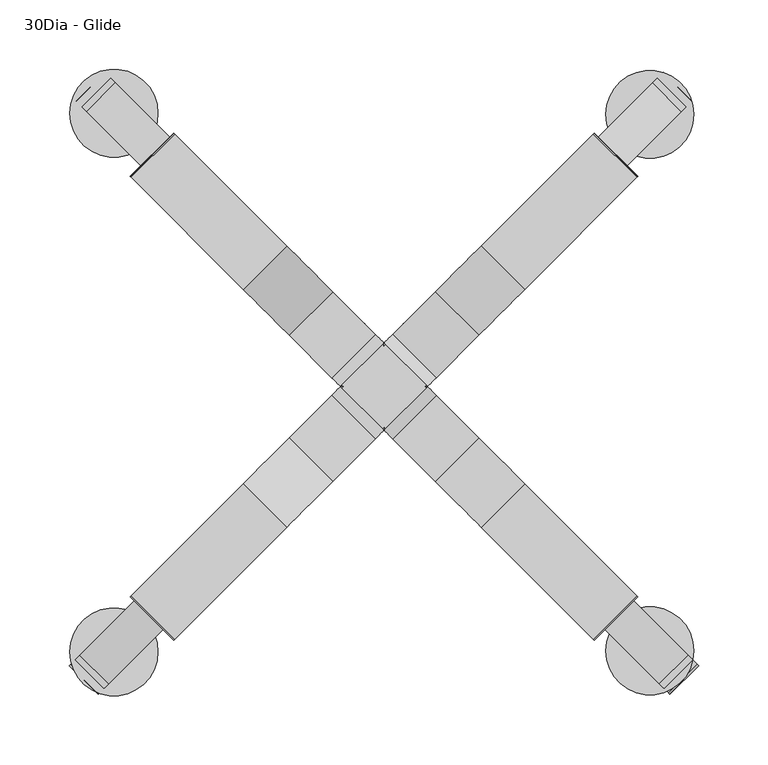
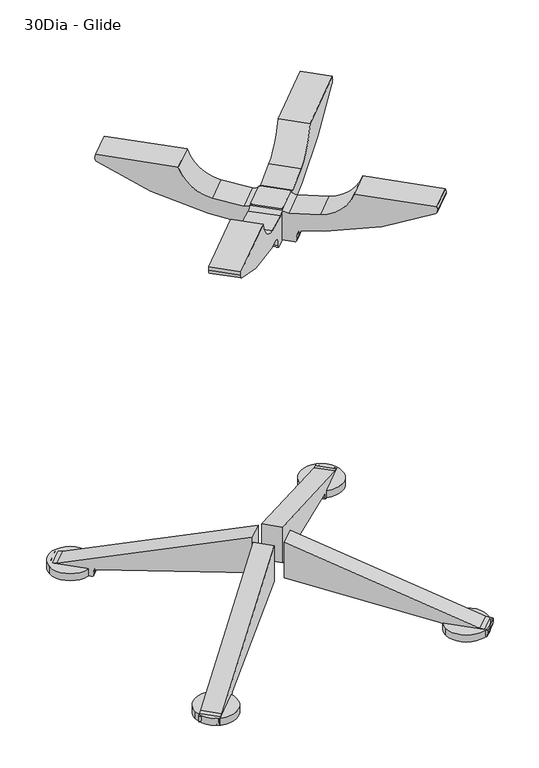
"""IFC4 building model written with IfcOpenShell, lengths in millimetres: furniture geometry, Coalesse_AM_Table_Conference_Ballet_Table_Round : 30Dia - Glide."""

from ifc_helpers import new_model, si_unit, point, frame, frame_2d, origin, place, context, project, spatial, polyline, circle_curve, ellipse_curve, trimmed, segment, composite_curve, outline, extrude, source, transform, mapped, element, save
from ifc_brep_helpers import plane_surface, cylinder_surface, revolved_surface, advanced_brep


def furniture_30dia_glide_76cbbe3d(model_context):
    return source(origin(), model_context, "Body", "SolidModel", [
        extrude(outline(composite_curve([segment(trimmed(circle_curve(frame_2d((-194.715793, 197.3207687)), 31.75), [point((-226.465793, 197.3207687))], [point((-162.965793, 197.3207687))], False, "CARTESIAN"), True, "CONTINUOUS"), segment(trimmed(circle_curve(frame_2d((-194.715793, 197.3207687)), 31.75), [point((-162.965793, 197.3207687))], [point((-226.465793, 197.3207687))], False, "CARTESIAN"), True, "CONTINUOUS")], self_intersect=False)), frame((0.0, 0.0, 4.2904479), z_axis=(0.0, 0.0, 1.0), x_axis=(1.0, 0.0, 0.0)), (0.0, 0.0, 1.0), 11.3833531),
        extrude(outline(composite_curve([segment(trimmed(circle_curve(frame_2d((191.7194605, 196.5270187)), 31.75), [point((159.9694605, 196.5270187))], [point((223.4694605, 196.5270187))], False, "CARTESIAN"), True, "CONTINUOUS"), segment(trimmed(circle_curve(frame_2d((191.7194605, 196.5270187)), 31.75), [point((223.4694605, 196.5270187))], [point((159.9694605, 196.5270187))], False, "CARTESIAN"), True, "CONTINUOUS")], self_intersect=False)), frame((0.0, 0.0, 4.2904479), z_axis=(0.0, 0.0, 1.0), x_axis=(1.0, 0.0, 0.0)), (0.0, 0.0, 1.0), 11.3833531),
        extrude(outline(composite_curve([segment(trimmed(circle_curve(frame_2d((-194.715793, -191.2787692)), 31.75), [point((-226.465793, -191.2787692))], [point((-162.965793, -191.2787692))], False, "CARTESIAN"), True, "CONTINUOUS"), segment(trimmed(circle_curve(frame_2d((-194.715793, -191.2787692)), 31.75), [point((-162.965793, -191.2787692))], [point((-226.465793, -191.2787692))], False, "CARTESIAN"), True, "CONTINUOUS")], self_intersect=False)), frame((0.0, 0.0, 4.2904479), z_axis=(0.0, 0.0, 1.0), x_axis=(1.0, 0.0, 0.0)), (0.0, 0.0, 1.0), 11.3833531),
        extrude(outline(composite_curve([segment(trimmed(circle_curve(frame_2d((191.7194605, -190.4850192)), 31.75), [point((159.9694605, -190.4850192))], [point((223.4694605, -190.4850192))], False, "CARTESIAN"), True, "CONTINUOUS"), segment(trimmed(circle_curve(frame_2d((191.7194605, -190.4850192)), 31.75), [point((223.4694605, -190.4850192))], [point((159.9694605, -190.4850192))], False, "CARTESIAN"), True, "CONTINUOUS")], self_intersect=False)), frame((0.0, 0.0, 4.2904479), z_axis=(0.0, 0.0, 1.0), x_axis=(1.0, 0.0, 0.0)), (0.0, 0.0, 1.0), 11.3833531),
        extrude(outline(composite_curve([segment(polyline([(-57.749273, 0.0), (0.0, 0.0), (-90.9931074, -269.8641919), (-92.3030079, -279.1846177)]), True, "CONTINUOUS"), segment(trimmed(circle_curve(frame_2d((-93.9206951, -278.9572666)), 1.6335852), [point((-92.3030079, -279.1846177))], [point((-93.8206014, -280.5877823))], False, "CARTESIAN"), True, "CONTINUOUS"), segment(trimmed(circle_curve(frame_2d((-95.8523928, -247.4901147)), 33.1599725), [point((-93.8206014, -280.5877823))], [point((-101.682402, -280.1335639))], False, "CARTESIAN"), True, "CONTINUOUS"), segment(trimmed(circle_curve(frame_2d((-101.2796868, -277.8786768)), 2.2905666), [point((-101.682402, -280.1335639))], [point((-103.5674671, -277.7657306))], False, "CARTESIAN"), True, "CONTINUOUS"), segment(polyline([(-103.5674671, -277.7657306), (-103.5674671, -222.4322812)]), True, "CONTINUOUS"), segment(trimmed(circle_curve(frame_2d((-100.6154331, -221.9840334)), 2.9858719), [point((-103.5674671, -222.4322812))], [point((-100.2998684, -219.0148838))], False, "CARTESIAN"), True, "CONTINUOUS"), segment(trimmed(circle_curve(frame_2d((-98.3053249, -200.2482144)), 18.872363), [point((-100.2998684, -219.0148838))], [point((-94.5016021, -218.7332835))], True, "CARTESIAN"), True, "CONTINUOUS"), segment(trimmed(circle_curve(frame_2d((-95.1495986, -215.5841949)), 3.2150673), [point((-94.5016021, -218.7332835))], [point((-91.9741141, -216.0871422))], True, "CARTESIAN"), True, "CONTINUOUS"), segment(polyline([(-91.9741141, -216.0871422), (-57.749273, 0.0)]), True, "CONTINUOUS")], self_intersect=False)), frame((-23.5273141, 7.7834997, 107.857915), z_axis=(0.7071067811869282, 0.707106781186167, 0.0), x_axis=(0.0, 0.0, 1.0)), (0.0, 0.0, 1.0), 29.2174476),
        extrude(outline(composite_curve([segment(polyline([(-57.749273, 44.2801775), (-91.9741141, 260.3673198)]), True, "CONTINUOUS"), segment(trimmed(circle_curve(frame_2d((-95.1495986, 259.8643724)), 3.2150673), [point((-91.9741141, 260.3673198))], [point((-94.5016021, 263.013461))], True, "CARTESIAN"), True, "CONTINUOUS"), segment(trimmed(circle_curve(frame_2d((-98.3053249, 244.5283919)), 18.872363), [point((-94.5016021, 263.013461))], [point((-100.2998684, 263.2950613))], True, "CARTESIAN"), True, "CONTINUOUS"), segment(trimmed(circle_curve(frame_2d((-100.6154331, 266.2642109)), 2.9858719), [point((-100.2998684, 263.2950613))], [point((-103.5674671, 266.7124587))], False, "CARTESIAN"), True, "CONTINUOUS"), segment(polyline([(-103.5674671, 266.7124587), (-103.5674671, 322.0459081)]), True, "CONTINUOUS"), segment(trimmed(circle_curve(frame_2d((-101.2796868, 322.1588543)), 2.2905666), [point((-103.5674671, 322.0459081))], [point((-101.682402, 324.4137415))], False, "CARTESIAN"), True, "CONTINUOUS"), segment(trimmed(circle_curve(frame_2d((-95.8523928, 291.7702923)), 33.1599725), [point((-101.682402, 324.4137415))], [point((-93.8206014, 324.8679598))], False, "CARTESIAN"), True, "CONTINUOUS"), segment(trimmed(circle_curve(frame_2d((-93.9206951, 323.2374442)), 1.6335852), [point((-93.8206014, 324.8679598))], [point((-92.3030079, 323.4647953))], False, "CARTESIAN"), True, "CONTINUOUS"), segment(polyline([(-92.3030079, 323.4647953), (-90.9931074, 314.1443694), (0.0, 44.2801775), (-57.749273, 44.2801775)]), True, "CONTINUOUS")], self_intersect=False)), frame((-23.5273141, 7.7834997, 107.857915), z_axis=(0.7071067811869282, 0.707106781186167, 0.0), x_axis=(0.0, 0.0, 1.0)), (0.0, 0.0, 1.0), 29.2174476),
        extrude(outline(composite_curve([segment(polyline([(-57.749273, 0.0), (0.0, 0.0), (-90.9931074, -269.8641919), (-92.3030079, -279.1846177)]), True, "CONTINUOUS"), segment(trimmed(circle_curve(frame_2d((-93.9206951, -278.9572666)), 1.6335852), [point((-92.3030079, -279.1846177))], [point((-93.8206014, -280.5877823))], False, "CARTESIAN"), True, "CONTINUOUS"), segment(trimmed(circle_curve(frame_2d((-95.8523928, -247.4901147)), 33.1599725), [point((-93.8206014, -280.5877823))], [point((-101.682402, -280.1335639))], False, "CARTESIAN"), True, "CONTINUOUS"), segment(trimmed(circle_curve(frame_2d((-101.2796868, -277.8786768)), 2.2905666), [point((-101.682402, -280.1335639))], [point((-103.5674671, -277.7657306))], False, "CARTESIAN"), True, "CONTINUOUS"), segment(polyline([(-103.5674671, -277.7657306), (-103.5674671, -222.4322812)]), True, "CONTINUOUS"), segment(trimmed(circle_curve(frame_2d((-100.6154331, -221.9840334)), 2.9858719), [point((-103.5674671, -222.4322812))], [point((-100.2998684, -219.0148838))], False, "CARTESIAN"), True, "CONTINUOUS"), segment(trimmed(circle_curve(frame_2d((-98.3053249, -200.2482144)), 18.872363), [point((-100.2998684, -219.0148838))], [point((-94.5016021, -218.7332835))], True, "CARTESIAN"), True, "CONTINUOUS"), segment(trimmed(circle_curve(frame_2d((-95.1495986, -215.5841949)), 3.2150673), [point((-94.5016021, -218.7332835))], [point((-91.9741141, -216.0871422))], True, "CARTESIAN"), True, "CONTINUOUS"), segment(polyline([(-91.9741141, -216.0871422), (-57.749273, 0.0)]), True, "CONTINUOUS")], self_intersect=False)), frame((-7.7834997, -23.5273141, 107.857915), z_axis=(-0.7071067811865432, 0.7071067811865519, 0.0), x_axis=(0.0, 0.0, 1.0)), (0.0, 0.0, 1.0), 29.2174476),
        extrude(outline(composite_curve([segment(polyline([(-57.749273, 44.2801775), (-91.9741141, 260.3673198)]), True, "CONTINUOUS"), segment(trimmed(circle_curve(frame_2d((-95.1495986, 259.8643724)), 3.2150673), [point((-91.9741141, 260.3673198))], [point((-94.5016021, 263.013461))], True, "CARTESIAN"), True, "CONTINUOUS"), segment(trimmed(circle_curve(frame_2d((-98.3053249, 244.5283919)), 18.872363), [point((-94.5016021, 263.013461))], [point((-100.2998684, 263.2950613))], True, "CARTESIAN"), True, "CONTINUOUS"), segment(trimmed(circle_curve(frame_2d((-100.6154331, 266.2642109)), 2.9858719), [point((-100.2998684, 263.2950613))], [point((-103.5674671, 266.7124587))], False, "CARTESIAN"), True, "CONTINUOUS"), segment(polyline([(-103.5674671, 266.7124587), (-103.5674671, 322.0459081)]), True, "CONTINUOUS"), segment(trimmed(circle_curve(frame_2d((-101.2796868, 322.1588543)), 2.2905666), [point((-103.5674671, 322.0459081))], [point((-101.682402, 324.4137415))], False, "CARTESIAN"), True, "CONTINUOUS"), segment(trimmed(circle_curve(frame_2d((-95.8523928, 291.7702923)), 33.1599725), [point((-101.682402, 324.4137415))], [point((-93.8206014, 324.8679598))], False, "CARTESIAN"), True, "CONTINUOUS"), segment(trimmed(circle_curve(frame_2d((-93.9206951, 323.2374442)), 1.6335852), [point((-93.8206014, 324.8679598))], [point((-92.3030079, 323.4647953))], False, "CARTESIAN"), True, "CONTINUOUS"), segment(polyline([(-92.3030079, 323.4647953), (-90.9931074, 314.1443694), (0.0, 44.2801775), (-57.749273, 44.2801775)]), True, "CONTINUOUS")], self_intersect=False)), frame((-7.7834997, -23.5273141, 107.857915), z_axis=(-0.7071067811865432, 0.7071067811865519, 0.0), x_axis=(0.0, 0.0, 1.0)), (0.0, 0.0, 1.0), 29.2174476),
        extrude(outline(composite_curve([segment(polyline([(-57.749273, 0.0), (0.0, 0.0), (-90.9931074, -269.8641919), (-92.3030079, -279.1846177)]), True, "CONTINUOUS"), segment(trimmed(circle_curve(frame_2d((-93.9206951, -278.9572666)), 1.6335852), [point((-92.3030079, -279.1846177))], [point((-93.8206014, -280.5877823))], False, "CARTESIAN"), True, "CONTINUOUS"), segment(trimmed(circle_curve(frame_2d((-95.8523928, -247.4901147)), 33.1599725), [point((-93.8206014, -280.5877823))], [point((-101.682402, -280.1335639))], False, "CARTESIAN"), True, "CONTINUOUS"), segment(trimmed(circle_curve(frame_2d((-101.2796868, -277.8786768)), 2.2905666), [point((-101.682402, -280.1335639))], [point((-103.5674671, -277.7657306))], False, "CARTESIAN"), True, "CONTINUOUS"), segment(polyline([(-103.5674671, -277.7657306), (-103.5674671, -222.4322812)]), True, "CONTINUOUS"), segment(trimmed(circle_curve(frame_2d((-100.6154331, -221.9840334)), 2.9858719), [point((-103.5674671, -222.4322812))], [point((-100.2998684, -219.0148838))], False, "CARTESIAN"), True, "CONTINUOUS"), segment(trimmed(circle_curve(frame_2d((-98.3053249, -200.2482144)), 18.872363), [point((-100.2998684, -219.0148838))], [point((-94.5016021, -218.7332835))], True, "CARTESIAN"), True, "CONTINUOUS"), segment(trimmed(circle_curve(frame_2d((-95.1495986, -215.5841949)), 3.2150673), [point((-94.5016021, -218.7332835))], [point((-91.9741141, -216.0871422))], True, "CARTESIAN"), True, "CONTINUOUS"), segment(polyline([(-91.9741141, -216.0871422), (-57.749273, 0.0)]), True, "CONTINUOUS")], self_intersect=False)), frame((-23.5273141, 7.7834997, 107.857915), z_axis=(0.7071067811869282, 0.707106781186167, 0.0), x_axis=(0.0, 0.0, 1.0)), (0.0, 0.0, 1.0), 29.2174476),
        extrude(outline(composite_curve([segment(polyline([(-57.749273, 44.2801775), (-91.9741141, 260.3673198)]), True, "CONTINUOUS"), segment(trimmed(circle_curve(frame_2d((-95.1495986, 259.8643724)), 3.2150673), [point((-91.9741141, 260.3673198))], [point((-94.5016021, 263.013461))], True, "CARTESIAN"), True, "CONTINUOUS"), segment(trimmed(circle_curve(frame_2d((-98.3053249, 244.5283919)), 18.872363), [point((-94.5016021, 263.013461))], [point((-100.2998684, 263.2950613))], True, "CARTESIAN"), True, "CONTINUOUS"), segment(trimmed(circle_curve(frame_2d((-100.6154331, 266.2642109)), 2.9858719), [point((-100.2998684, 263.2950613))], [point((-103.5674671, 266.7124587))], False, "CARTESIAN"), True, "CONTINUOUS"), segment(polyline([(-103.5674671, 266.7124587), (-103.5674671, 322.0459081)]), True, "CONTINUOUS"), segment(trimmed(circle_curve(frame_2d((-101.2796868, 322.1588543)), 2.2905666), [point((-103.5674671, 322.0459081))], [point((-101.682402, 324.4137415))], False, "CARTESIAN"), True, "CONTINUOUS"), segment(trimmed(circle_curve(frame_2d((-95.8523928, 291.7702923)), 33.1599725), [point((-101.682402, 324.4137415))], [point((-93.8206014, 324.8679598))], False, "CARTESIAN"), True, "CONTINUOUS"), segment(trimmed(circle_curve(frame_2d((-93.9206951, 323.2374442)), 1.6335852), [point((-93.8206014, 324.8679598))], [point((-92.3030079, 323.4647953))], False, "CARTESIAN"), True, "CONTINUOUS"), segment(polyline([(-92.3030079, 323.4647953), (-90.9931074, 314.1443694), (0.0, 44.2801775), (-57.749273, 44.2801775)]), True, "CONTINUOUS")], self_intersect=False)), frame((-23.5273141, 7.7834997, 107.857915), z_axis=(0.7071067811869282, 0.707106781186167, 0.0), x_axis=(0.0, 0.0, 1.0)), (0.0, 0.0, 1.0), 29.2174476),
        extrude(outline(composite_curve([segment(polyline([(-57.749273, 0.0), (0.0, 0.0), (-90.9931074, -269.8641919), (-92.3030079, -279.1846177)]), True, "CONTINUOUS"), segment(trimmed(circle_curve(frame_2d((-93.9206951, -278.9572666)), 1.6335852), [point((-92.3030079, -279.1846177))], [point((-93.8206014, -280.5877823))], False, "CARTESIAN"), True, "CONTINUOUS"), segment(trimmed(circle_curve(frame_2d((-95.8523928, -247.4901147)), 33.1599725), [point((-93.8206014, -280.5877823))], [point((-101.682402, -280.1335639))], False, "CARTESIAN"), True, "CONTINUOUS"), segment(trimmed(circle_curve(frame_2d((-101.2796868, -277.8786768)), 2.2905666), [point((-101.682402, -280.1335639))], [point((-103.5674671, -277.7657306))], False, "CARTESIAN"), True, "CONTINUOUS"), segment(polyline([(-103.5674671, -277.7657306), (-103.5674671, -222.4322812)]), True, "CONTINUOUS"), segment(trimmed(circle_curve(frame_2d((-100.6154331, -221.9840334)), 2.9858719), [point((-103.5674671, -222.4322812))], [point((-100.2998684, -219.0148838))], False, "CARTESIAN"), True, "CONTINUOUS"), segment(trimmed(circle_curve(frame_2d((-98.3053249, -200.2482144)), 18.872363), [point((-100.2998684, -219.0148838))], [point((-94.5016021, -218.7332835))], True, "CARTESIAN"), True, "CONTINUOUS"), segment(trimmed(circle_curve(frame_2d((-95.1495986, -215.5841949)), 3.2150673), [point((-94.5016021, -218.7332835))], [point((-91.9741141, -216.0871422))], True, "CARTESIAN"), True, "CONTINUOUS"), segment(polyline([(-91.9741141, -216.0871422), (-57.749273, 0.0)]), True, "CONTINUOUS")], self_intersect=False)), frame((-7.7834997, -23.5273141, 107.857915), z_axis=(-0.7071067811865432, 0.7071067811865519, 0.0), x_axis=(0.0, 0.0, 1.0)), (0.0, 0.0, 1.0), 29.2174476),
        extrude(outline(composite_curve([segment(polyline([(-57.749273, 44.2801775), (-91.9741141, 260.3673198)]), True, "CONTINUOUS"), segment(trimmed(circle_curve(frame_2d((-95.1495986, 259.8643724)), 3.2150673), [point((-91.9741141, 260.3673198))], [point((-94.5016021, 263.013461))], True, "CARTESIAN"), True, "CONTINUOUS"), segment(trimmed(circle_curve(frame_2d((-98.3053249, 244.5283919)), 18.872363), [point((-94.5016021, 263.013461))], [point((-100.2998684, 263.2950613))], True, "CARTESIAN"), True, "CONTINUOUS"), segment(trimmed(circle_curve(frame_2d((-100.6154331, 266.2642109)), 2.9858719), [point((-100.2998684, 263.2950613))], [point((-103.5674671, 266.7124587))], False, "CARTESIAN"), True, "CONTINUOUS"), segment(polyline([(-103.5674671, 266.7124587), (-103.5674671, 322.0459081)]), True, "CONTINUOUS"), segment(trimmed(circle_curve(frame_2d((-101.2796868, 322.1588543)), 2.2905666), [point((-103.5674671, 322.0459081))], [point((-101.682402, 324.4137415))], False, "CARTESIAN"), True, "CONTINUOUS"), segment(trimmed(circle_curve(frame_2d((-95.8523928, 291.7702923)), 33.1599725), [point((-101.682402, 324.4137415))], [point((-93.8206014, 324.8679598))], False, "CARTESIAN"), True, "CONTINUOUS"), segment(trimmed(circle_curve(frame_2d((-93.9206951, 323.2374442)), 1.6335852), [point((-93.8206014, 324.8679598))], [point((-92.3030079, 323.4647953))], False, "CARTESIAN"), True, "CONTINUOUS"), segment(polyline([(-92.3030079, 323.4647953), (-90.9931074, 314.1443694), (0.0, 44.2801775), (-57.749273, 44.2801775)]), True, "CONTINUOUS")], self_intersect=False)), frame((-7.7834997, -23.5273141, 107.857915), z_axis=(-0.7071067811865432, 0.7071067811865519, 0.0), x_axis=(0.0, 0.0, 1.0)), (0.0, 0.0, 1.0), 29.2174476),
        advanced_brep(
        [(-150.9398086, 182.2506224, 700.0114872), (-70.1175035, 101.4283173, 700.0114872), (-37.0411578, 68.3519716, 657.9865814), (-6.3643773, 37.6751912, 652.7037643), (0.0, 31.3108139, 656.2118338), (0.0, 31.3108139, 607.705542), (-12.3857352, 43.696549, 607.705542), (-14.2020287, 45.5128426, 611.6658356), (-15.6984339, 47.0092478, 622.1978097), (-23.1902019, 54.5010157, 628.8391432), (-41.0401266, 72.3509404, 632.6071482), (-149.5727323, 180.8835461, 688.6179), (-151.5948536, 182.9056675, 694.7577614), (1.002461, 30.3083528, 657.9865814), (30.3083528, 1.002461, 657.9865814), (31.3108139, 0.0, 656.2118338), (37.6751912, -6.3643773, 652.7037643), (68.3519716, -37.0411578, 657.9865814), (101.4283173, -70.1175035, 700.0114872), (182.2506224, -150.9398086, 700.0114872), (182.9056675, -151.5948536, 694.7577614), (180.8835461, -149.5727323, 688.6179), (72.3509404, -41.0401266, 632.6071482), (54.5010157, -23.1902019, 628.8391432), (47.0092478, -15.6984339, 622.1978097), (45.5128426, -14.2020287, 611.6658356), (43.696549, -12.3857352, 607.705542), (31.3108139, 0.0, 607.705542), (-182.2506224, 150.9398086, 700.0114872), (-182.9056675, 151.5948536, 694.7577614), (-180.8835461, 149.5727323, 688.6179), (-72.3509404, 41.0401266, 632.6071482), (-54.5010157, 23.1902019, 628.8391432), (-47.0092478, 15.6984339, 622.1978097), (-45.5128426, 14.2020287, 611.6658356), (-43.696549, 12.3857352, 607.705542), (-31.3108139, 0.0, 607.705542), (-31.3108139, 0.0, 656.2118338), (-37.6751912, 6.3643773, 652.7037643), (-68.3519716, 37.0411578, 657.9865814), (-101.4283173, 70.1175035, 700.0114872), (12.3857352, -43.696549, 607.705542), (14.2020287, -45.5128426, 611.6658356), (15.6984339, -47.0092478, 622.1978097), (23.1902019, -54.5010157, 628.8391432), (41.0401266, -72.3509404, 632.6071482), (149.5727323, -180.8835461, 688.6179), (151.5948536, -182.9056675, 694.7577614), (150.9398086, -182.2506224, 700.0114872), (70.1175035, -101.4283173, 700.0114872), (37.0411578, -68.3519716, 657.9865814), (6.3643773, -37.6751912, 652.7037643), (0.0, -31.3108139, 656.2118338), (0.0, -31.3108139, 607.705542), (-1.002461, -30.3083528, 657.9865814), (-30.3083528, -1.002461, 657.9865814), (0.0, 29.3058918, 657.9865814), (-29.3058918, 0.0, 657.9865814), (-1.002461, 30.3083528, 657.9865814), (-30.3083528, 1.002461, 657.9865814), (0.0, -29.3058918, 657.9865814), (1.002461, -30.3083528, 657.9865814), (30.3083528, -1.002461, 657.9865814), (29.3058918, 0.0, 657.9865814), (-12.3857352, -43.696549, 607.705542), (-43.696549, -12.3857352, 607.705542), (12.3857352, 43.696549, 607.705542), (43.696549, 12.3857352, 607.705542), (-182.2506224, -150.9398086, 700.0114872), (-101.4283173, -70.1175035, 700.0114872), (-68.3519716, -37.0411578, 657.9865814), (-37.6751912, -6.3643773, 652.7037643), (-45.5128426, -14.2020287, 611.6658356), (-47.0092478, -15.6984339, 622.1978097), (-54.5010157, -23.1902019, 628.8391432), (-72.3509404, -41.0401266, 632.6071482), (-180.8835461, -149.5727323, 688.6179), (-182.9056675, -151.5948536, 694.7577614), (6.3643773, 37.6751912, 652.7037643), (37.0411578, 68.3519716, 657.9865814), (70.1175035, 101.4283173, 700.0114872), (150.9398086, 182.2506224, 700.0114872), (151.5948536, 182.9056675, 694.7577614), (149.5727323, 180.8835461, 688.6179), (41.0401266, 72.3509404, 632.6071482), (23.1902019, 54.5010157, 628.8391432), (15.6984339, 47.0092478, 622.1978097), (14.2020287, 45.5128426, 611.6658356), (-150.9398086, -182.2506224, 700.0114872), (-151.5948536, -182.9056675, 694.7577614), (-149.5727323, -180.8835461, 688.6179), (-41.0401266, -72.3509404, 632.6071482), (-23.1902019, -54.5010157, 628.8391432), (-15.6984339, -47.0092478, 622.1978097), (-14.2020287, -45.5128426, 611.6658356), (-6.3643773, -37.6751912, 652.7037643), (-37.0411578, -68.3519716, 657.9865814), (-70.1175035, -101.4283173, 700.0114872), (45.5128426, 14.2020287, 611.6658356), (47.0092478, 15.6984339, 622.1978097), (54.5010157, 23.1902019, 628.8391432), (72.3509404, 41.0401266, 632.6071482), (180.8835461, 149.5727323, 688.6179), (182.9056675, 151.5948536, 694.7577614), (182.2506224, 150.9398086, 700.0114872), (101.4283173, 70.1175035, 700.0114872), (68.3519716, 37.0411578, 657.9865814), (37.6751912, 6.3643773, 652.7037643)],
        [
            (0, 1),
            (1, 2, circle_curve(frame((-29.0948532, 60.4056671, 717.5408002), z_axis=(-0.7071067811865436, -0.7071067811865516, 0.0), x_axis=(-0.7071067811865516, 0.7071067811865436, 0.0)), 60.6052183)),
            (2, 3, circle_curve(frame((6.8454357, 24.4653781, 986.8981875), z_axis=(-0.7071067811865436, -0.7071067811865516, 0.0), x_axis=(-0.7071067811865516, 0.7071067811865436, 0.0)), 334.7161645)),
            (3, 4, circle_curve(frame((-5.9045929, 37.2154067, 664.335829), z_axis=(-0.7071067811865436, -0.7071067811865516, 0.0), x_axis=(-0.7071067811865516, 0.7071067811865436, 0.0)), 11.6502245)),
            (4, 5),
            (5, 6),
            (6, 7, circle_curve(frame((-11.7932683, 43.1040822, 611.0621296), z_axis=(0.7071067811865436, 0.7071067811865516, 0.0), x_axis=(-0.7071067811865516, 0.7071067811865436, 0.0)), 3.4595829)),
            (7, 8, circle_curve(frame((-24.4463544, 55.7571683, 614.2333641), z_axis=(-0.7071067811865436, -0.7071067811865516, 0.0), x_axis=(-0.7071067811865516, 0.7071067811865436, 0.0)), 14.7134164)),
            (8, 9, circle_curve(frame((-24.4463544, 55.7571683, 614.2333641), z_axis=(-0.7071067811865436, -0.7071067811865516, 0.0), x_axis=(-0.7071067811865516, 0.7071067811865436, 0.0)), 14.7134164)),
            (9, 10, circle_curve(frame((16.961398, 14.3494158, 1095.6975551), z_axis=(0.7071067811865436, 0.7071067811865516, 0.0), x_axis=(-0.7071067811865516, 0.7071067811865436, 0.0)), 470.2989248)),
            (10, 11, circle_curve(frame((16.961398, 14.3494158, 1095.6975551), z_axis=(0.7071067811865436, 0.7071067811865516, 0.0), x_axis=(-0.7071067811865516, 0.7071067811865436, 0.0)), 470.2989248)),
            (11, 12, circle_curve(frame((-147.4806516, 178.7914655, 693.7318275), z_axis=(0.7071067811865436, 0.7071067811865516, 0.0), x_axis=(-0.7071067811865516, 0.7071067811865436, 0.0)), 5.9081179)),
            (12, 0),
            (13, 14),
            (14, 15, circle_curve(frame((37.2154067, -5.9045929, 664.335829), z_axis=(-0.7071067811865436, -0.7071067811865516, 0.0), x_axis=(-0.7071067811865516, 0.7071067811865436, 0.0)), 11.6502245)),
            (15, 4),
            (4, 13, circle_curve(frame((-5.9045929, 37.2154067, 664.335829), z_axis=(-0.7071067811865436, -0.7071067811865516, 0.0), x_axis=(-0.7071067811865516, 0.7071067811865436, 0.0)), 11.6502245)),
            (16, 17, circle_curve(frame((24.4653781, 6.8454357, 986.8981875), z_axis=(-0.7071067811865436, -0.7071067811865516, 0.0), x_axis=(-0.7071067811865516, 0.7071067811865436, 0.0)), 334.7161645)),
            (17, 18, circle_curve(frame((60.4056671, -29.0948532, 717.5408002), z_axis=(-0.7071067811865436, -0.7071067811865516, 0.0), x_axis=(-0.7071067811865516, 0.7071067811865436, 0.0)), 60.6052183)),
            (18, 19),
            (19, 20),
            (20, 21, circle_curve(frame((178.7914655, -147.4806516, 693.7318275), z_axis=(0.7071067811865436, 0.7071067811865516, 0.0), x_axis=(-0.7071067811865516, 0.7071067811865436, 0.0)), 5.9081179)),
            (21, 22, circle_curve(frame((14.3494158, 16.961398, 1095.6975551), z_axis=(0.7071067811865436, 0.7071067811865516, 0.0), x_axis=(-0.7071067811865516, 0.7071067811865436, 0.0)), 470.2989248)),
            (22, 23, circle_curve(frame((14.3494158, 16.961398, 1095.6975551), z_axis=(0.7071067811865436, 0.7071067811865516, 0.0), x_axis=(-0.7071067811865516, 0.7071067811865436, 0.0)), 470.2989248)),
            (23, 24, circle_curve(frame((55.7571683, -24.4463544, 614.2333641), z_axis=(-0.7071067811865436, -0.7071067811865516, 0.0), x_axis=(-0.7071067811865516, 0.7071067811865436, 0.0)), 14.7134164)),
            (24, 25, circle_curve(frame((55.7571683, -24.4463544, 614.2333641), z_axis=(-0.7071067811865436, -0.7071067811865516, 0.0), x_axis=(-0.7071067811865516, 0.7071067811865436, 0.0)), 14.7134164)),
            (25, 26, circle_curve(frame((43.1040822, -11.7932683, 611.0621296), z_axis=(0.7071067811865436, 0.7071067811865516, 0.0), x_axis=(-0.7071067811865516, 0.7071067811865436, 0.0)), 3.4595829)),
            (26, 27),
            (27, 15),
            (15, 16, circle_curve(frame((37.2154067, -5.9045929, 664.335829), z_axis=(-0.7071067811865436, -0.7071067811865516, 0.0), x_axis=(-0.7071067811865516, 0.7071067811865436, 0.0)), 11.6502245)),
            (28, 29),
            (29, 30, circle_curve(frame((-178.7914655, 147.4806516, 693.7318275), z_axis=(-0.7071067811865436, -0.7071067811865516, 0.0), x_axis=(-0.7071067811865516, 0.7071067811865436, 0.0)), 5.9081179)),
            (30, 31, circle_curve(frame((-14.3494158, -16.961398, 1095.6975551), z_axis=(-0.7071067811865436, -0.7071067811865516, 0.0), x_axis=(-0.7071067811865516, 0.7071067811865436, 0.0)), 470.2989248)),
            (31, 32, circle_curve(frame((-14.3494158, -16.961398, 1095.6975551), z_axis=(-0.7071067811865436, -0.7071067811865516, 0.0), x_axis=(-0.7071067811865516, 0.7071067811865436, 0.0)), 470.2989248)),
            (32, 33, circle_curve(frame((-55.7571683, 24.4463544, 614.2333641), z_axis=(0.7071067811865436, 0.7071067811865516, 0.0), x_axis=(-0.7071067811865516, 0.7071067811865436, 0.0)), 14.7134164)),
            (33, 34, circle_curve(frame((-55.7571683, 24.4463544, 614.2333641), z_axis=(0.7071067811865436, 0.7071067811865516, 0.0), x_axis=(-0.7071067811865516, 0.7071067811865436, 0.0)), 14.7134164)),
            (34, 35, circle_curve(frame((-43.1040822, 11.7932683, 611.0621296), z_axis=(-0.7071067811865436, -0.7071067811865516, 0.0), x_axis=(-0.7071067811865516, 0.7071067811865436, 0.0)), 3.4595829)),
            (35, 36),
            (36, 37),
            (37, 38, circle_curve(frame((-37.2154067, 5.9045929, 664.335829), z_axis=(0.7071067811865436, 0.7071067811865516, 0.0), x_axis=(-0.7071067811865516, 0.7071067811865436, 0.0)), 11.6502245)),
            (38, 39, circle_curve(frame((-24.4653781, -6.8454357, 986.8981875), z_axis=(0.7071067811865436, 0.7071067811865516, 0.0), x_axis=(-0.7071067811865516, 0.7071067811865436, 0.0)), 334.7161645)),
            (39, 40, circle_curve(frame((-60.4056671, 29.0948532, 717.5408002), z_axis=(0.7071067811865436, 0.7071067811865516, 0.0), x_axis=(-0.7071067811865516, 0.7071067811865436, 0.0)), 60.6052183)),
            (40, 28),
            (41, 42, circle_curve(frame((11.7932683, -43.1040822, 611.0621296), z_axis=(-0.7071067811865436, -0.7071067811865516, 0.0), x_axis=(-0.7071067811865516, 0.7071067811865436, 0.0)), 3.4595829)),
            (42, 43, circle_curve(frame((24.4463544, -55.7571683, 614.2333641), z_axis=(0.7071067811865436, 0.7071067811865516, 0.0), x_axis=(-0.7071067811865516, 0.7071067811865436, 0.0)), 14.7134164)),
            (43, 44, circle_curve(frame((24.4463544, -55.7571683, 614.2333641), z_axis=(0.7071067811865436, 0.7071067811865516, 0.0), x_axis=(-0.7071067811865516, 0.7071067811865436, 0.0)), 14.7134164)),
            (44, 45, circle_curve(frame((-16.961398, -14.3494158, 1095.6975551), z_axis=(-0.7071067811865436, -0.7071067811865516, 0.0), x_axis=(-0.7071067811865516, 0.7071067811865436, 0.0)), 470.2989248)),
            (45, 46, circle_curve(frame((-16.961398, -14.3494158, 1095.6975551), z_axis=(-0.7071067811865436, -0.7071067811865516, 0.0), x_axis=(-0.7071067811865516, 0.7071067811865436, 0.0)), 470.2989248)),
            (46, 47, circle_curve(frame((147.4806516, -178.7914655, 693.7318275), z_axis=(-0.7071067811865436, -0.7071067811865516, 0.0), x_axis=(-0.7071067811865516, 0.7071067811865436, 0.0)), 5.9081179)),
            (47, 48),
            (48, 49),
            (49, 50, circle_curve(frame((29.0948532, -60.4056671, 717.5408002), z_axis=(0.7071067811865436, 0.7071067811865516, 0.0), x_axis=(-0.7071067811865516, 0.7071067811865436, 0.0)), 60.6052183)),
            (50, 51, circle_curve(frame((-6.8454357, -24.4653781, 986.8981875), z_axis=(0.7071067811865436, 0.7071067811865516, 0.0), x_axis=(-0.7071067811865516, 0.7071067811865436, 0.0)), 334.7161645)),
            (51, 52, circle_curve(frame((5.9045929, -37.2154067, 664.335829), z_axis=(0.7071067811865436, 0.7071067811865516, 0.0), x_axis=(-0.7071067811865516, 0.7071067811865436, 0.0)), 11.6502245)),
            (52, 53),
            (53, 41),
            (54, 55),
            (55, 37, circle_curve(frame((-37.2154067, 5.9045929, 664.335829), z_axis=(0.7071067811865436, 0.7071067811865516, 0.0), x_axis=(-0.7071067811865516, 0.7071067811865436, 0.0)), 11.6502245)),
            (37, 52),
            (52, 54, circle_curve(frame((5.9045929, -37.2154067, 664.335829), z_axis=(0.7071067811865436, 0.7071067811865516, 0.0), x_axis=(-0.7071067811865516, 0.7071067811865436, 0.0)), 11.6502245)),
            (0, 28),
            (40, 1),
            (39, 2),
            (38, 3),
            (4, 56, ellipse_curve(frame((0.0, 43.1199996, 664.335829), z_axis=(-1.0, 0.0, 0.0), x_axis=(0.0, -1.0, 0.0)), 16.4759055, 11.6502245)),
            (56, 13),
            (55, 57),
            (57, 37, ellipse_curve(frame((-43.1199996, 0.0, 664.335829), z_axis=(0.0, 1.0, 0.0), x_axis=(-1.0, 0.0, 0.0)), 16.4759055, 11.6502245)),
            (37, 4),
            (56, 58),
            (58, 59),
            (59, 57),
            (54, 60),
            (60, 61),
            (61, 62),
            (62, 63),
            (63, 14),
            (63, 15, ellipse_curve(frame((43.1199996, 0.0, 664.335829), z_axis=(0.0, -1.0, 0.0), x_axis=(-1.0, 0.0, 0.0)), 16.4759055, 11.6502245)),
            (52, 60, ellipse_curve(frame((0.0, -43.1199996, 664.335829), z_axis=(1.0, 0.0, 0.0), x_axis=(0.0, -1.0, 0.0)), 16.4759055, 11.6502245)),
            (51, 16),
            (15, 52),
            (50, 17),
            (49, 18),
            (48, 19),
            (47, 20),
            (46, 21),
            (45, 22),
            (44, 23),
            (43, 24),
            (42, 25),
            (41, 26),
            (53, 64),
            (64, 65),
            (65, 36),
            (35, 6),
            (5, 66),
            (66, 67),
            (67, 27),
            (34, 7),
            (33, 8),
            (32, 9),
            (31, 10),
            (30, 11),
            (29, 12),
            (58, 4, circle_curve(frame((5.9045929, 37.2154067, 664.335829), z_axis=(0.707106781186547, -0.7071067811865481, 0.0), x_axis=(-0.7071067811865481, -0.707106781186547, 0.0)), 11.6502245)),
            (37, 59, circle_curve(frame((-37.2154067, -5.9045929, 664.335829), z_axis=(0.707106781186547, -0.7071067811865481, 0.0), x_axis=(-0.7071067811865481, -0.707106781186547, 0.0)), 11.6502245)),
            (68, 69),
            (69, 70, circle_curve(frame((-60.4056671, -29.0948532, 717.5408002), z_axis=(0.707106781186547, -0.7071067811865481, 0.0), x_axis=(-0.7071067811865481, -0.707106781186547, 0.0)), 60.6052183)),
            (70, 71, circle_curve(frame((-24.4653781, 6.8454357, 986.8981875), z_axis=(0.707106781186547, -0.7071067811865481, 0.0), x_axis=(-0.7071067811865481, -0.707106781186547, 0.0)), 334.7161645)),
            (71, 37, circle_curve(frame((-37.2154067, -5.9045929, 664.335829), z_axis=(0.707106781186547, -0.7071067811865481, 0.0), x_axis=(-0.7071067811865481, -0.707106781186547, 0.0)), 11.6502245)),
            (65, 72, circle_curve(frame((-43.1040822, -11.7932683, 611.0621296), z_axis=(-0.707106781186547, 0.7071067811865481, 0.0), x_axis=(-0.7071067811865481, -0.707106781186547, 0.0)), 3.4595829)),
            (72, 73, circle_curve(frame((-55.7571683, -24.4463544, 614.2333641), z_axis=(0.707106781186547, -0.7071067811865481, 0.0), x_axis=(-0.7071067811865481, -0.707106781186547, 0.0)), 14.7134164)),
            (73, 74, circle_curve(frame((-55.7571683, -24.4463544, 614.2333641), z_axis=(0.707106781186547, -0.7071067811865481, 0.0), x_axis=(-0.7071067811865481, -0.707106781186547, 0.0)), 14.7134164)),
            (74, 75, circle_curve(frame((-14.3494158, 16.961398, 1095.6975551), z_axis=(-0.707106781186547, 0.7071067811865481, 0.0), x_axis=(-0.7071067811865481, -0.707106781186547, 0.0)), 470.2989248)),
            (75, 76, circle_curve(frame((-14.3494158, 16.961398, 1095.6975551), z_axis=(-0.707106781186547, 0.7071067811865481, 0.0), x_axis=(-0.7071067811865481, -0.707106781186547, 0.0)), 470.2989248)),
            (76, 77, circle_curve(frame((-178.7914655, -147.4806516, 693.7318275), z_axis=(-0.707106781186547, 0.7071067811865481, 0.0), x_axis=(-0.7071067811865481, -0.707106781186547, 0.0)), 5.9081179)),
            (77, 68),
            (78, 79, circle_curve(frame((-6.8454357, 24.4653781, 986.8981875), z_axis=(0.707106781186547, -0.7071067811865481, 0.0), x_axis=(-0.7071067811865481, -0.707106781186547, 0.0)), 334.7161645)),
            (79, 80, circle_curve(frame((29.0948532, 60.4056671, 717.5408002), z_axis=(0.707106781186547, -0.7071067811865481, 0.0), x_axis=(-0.7071067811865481, -0.707106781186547, 0.0)), 60.6052183)),
            (80, 81),
            (81, 82),
            (82, 83, circle_curve(frame((147.4806516, 178.7914655, 693.7318275), z_axis=(-0.707106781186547, 0.7071067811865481, 0.0), x_axis=(-0.7071067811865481, -0.707106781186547, 0.0)), 5.9081179)),
            (83, 84, circle_curve(frame((-16.961398, 14.3494158, 1095.6975551), z_axis=(-0.707106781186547, 0.7071067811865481, 0.0), x_axis=(-0.7071067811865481, -0.707106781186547, 0.0)), 470.2989248)),
            (84, 85, circle_curve(frame((-16.961398, 14.3494158, 1095.6975551), z_axis=(-0.707106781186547, 0.7071067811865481, 0.0), x_axis=(-0.7071067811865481, -0.707106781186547, 0.0)), 470.2989248)),
            (85, 86, circle_curve(frame((24.4463544, 55.7571683, 614.2333641), z_axis=(0.707106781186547, -0.7071067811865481, 0.0), x_axis=(-0.7071067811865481, -0.707106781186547, 0.0)), 14.7134164)),
            (86, 87, circle_curve(frame((24.4463544, 55.7571683, 614.2333641), z_axis=(0.707106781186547, -0.7071067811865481, 0.0), x_axis=(-0.7071067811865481, -0.707106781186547, 0.0)), 14.7134164)),
            (87, 66, circle_curve(frame((11.7932683, 43.1040822, 611.0621296), z_axis=(-0.707106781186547, 0.7071067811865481, 0.0), x_axis=(-0.7071067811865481, -0.707106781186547, 0.0)), 3.4595829)),
            (4, 78, circle_curve(frame((5.9045929, 37.2154067, 664.335829), z_axis=(0.707106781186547, -0.7071067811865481, 0.0), x_axis=(-0.7071067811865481, -0.707106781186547, 0.0)), 11.6502245)),
            (61, 52, circle_curve(frame((-5.9045929, -37.2154067, 664.335829), z_axis=(-0.707106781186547, 0.7071067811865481, 0.0), x_axis=(-0.7071067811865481, -0.707106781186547, 0.0)), 11.6502245)),
            (15, 62, circle_curve(frame((37.2154067, 5.9045929, 664.335829), z_axis=(-0.707106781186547, 0.7071067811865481, 0.0), x_axis=(-0.7071067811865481, -0.707106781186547, 0.0)), 11.6502245)),
            (88, 89),
            (89, 90, circle_curve(frame((-147.4806516, -178.7914655, 693.7318275), z_axis=(0.707106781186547, -0.7071067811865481, 0.0), x_axis=(-0.7071067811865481, -0.707106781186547, 0.0)), 5.9081179)),
            (90, 91, circle_curve(frame((16.961398, -14.3494158, 1095.6975551), z_axis=(0.707106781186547, -0.7071067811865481, 0.0), x_axis=(-0.7071067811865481, -0.707106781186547, 0.0)), 470.2989248)),
            (91, 92, circle_curve(frame((16.961398, -14.3494158, 1095.6975551), z_axis=(0.707106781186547, -0.7071067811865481, 0.0), x_axis=(-0.7071067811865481, -0.707106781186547, 0.0)), 470.2989248)),
            (92, 93, circle_curve(frame((-24.4463544, -55.7571683, 614.2333641), z_axis=(-0.707106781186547, 0.7071067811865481, 0.0), x_axis=(-0.7071067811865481, -0.707106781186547, 0.0)), 14.7134164)),
            (93, 94, circle_curve(frame((-24.4463544, -55.7571683, 614.2333641), z_axis=(-0.707106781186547, 0.7071067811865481, 0.0), x_axis=(-0.7071067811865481, -0.707106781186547, 0.0)), 14.7134164)),
            (94, 64, circle_curve(frame((-11.7932683, -43.1040822, 611.0621296), z_axis=(0.707106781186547, -0.7071067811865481, 0.0), x_axis=(-0.7071067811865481, -0.707106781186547, 0.0)), 3.4595829)),
            (52, 95, circle_curve(frame((-5.9045929, -37.2154067, 664.335829), z_axis=(-0.707106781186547, 0.7071067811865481, 0.0), x_axis=(-0.7071067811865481, -0.707106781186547, 0.0)), 11.6502245)),
            (95, 96, circle_curve(frame((6.8454357, -24.4653781, 986.8981875), z_axis=(-0.707106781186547, 0.7071067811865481, 0.0), x_axis=(-0.7071067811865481, -0.707106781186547, 0.0)), 334.7161645)),
            (96, 97, circle_curve(frame((-29.0948532, -60.4056671, 717.5408002), z_axis=(-0.707106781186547, 0.7071067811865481, 0.0), x_axis=(-0.7071067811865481, -0.707106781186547, 0.0)), 60.6052183)),
            (97, 88),
            (67, 98, circle_curve(frame((43.1040822, 11.7932683, 611.0621296), z_axis=(0.707106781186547, -0.7071067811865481, 0.0), x_axis=(-0.7071067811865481, -0.707106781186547, 0.0)), 3.4595829)),
            (98, 99, circle_curve(frame((55.7571683, 24.4463544, 614.2333641), z_axis=(-0.707106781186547, 0.7071067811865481, 0.0), x_axis=(-0.7071067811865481, -0.707106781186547, 0.0)), 14.7134164)),
            (99, 100, circle_curve(frame((55.7571683, 24.4463544, 614.2333641), z_axis=(-0.707106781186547, 0.7071067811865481, 0.0), x_axis=(-0.7071067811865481, -0.707106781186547, 0.0)), 14.7134164)),
            (100, 101, circle_curve(frame((14.3494158, -16.961398, 1095.6975551), z_axis=(0.707106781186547, -0.7071067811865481, 0.0), x_axis=(-0.7071067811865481, -0.707106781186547, 0.0)), 470.2989248)),
            (101, 102, circle_curve(frame((14.3494158, -16.961398, 1095.6975551), z_axis=(0.707106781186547, -0.7071067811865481, 0.0), x_axis=(-0.7071067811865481, -0.707106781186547, 0.0)), 470.2989248)),
            (102, 103, circle_curve(frame((178.7914655, 147.4806516, 693.7318275), z_axis=(0.707106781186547, -0.7071067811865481, 0.0), x_axis=(-0.7071067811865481, -0.707106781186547, 0.0)), 5.9081179)),
            (103, 104),
            (104, 105),
            (105, 106, circle_curve(frame((60.4056671, 29.0948532, 717.5408002), z_axis=(-0.707106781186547, 0.7071067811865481, 0.0), x_axis=(-0.7071067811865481, -0.707106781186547, 0.0)), 60.6052183)),
            (106, 107, circle_curve(frame((24.4653781, -6.8454357, 986.8981875), z_axis=(-0.707106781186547, 0.7071067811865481, 0.0), x_axis=(-0.7071067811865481, -0.707106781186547, 0.0)), 334.7161645)),
            (107, 15, circle_curve(frame((37.2154067, 5.9045929, 664.335829), z_axis=(-0.707106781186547, 0.7071067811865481, 0.0), x_axis=(-0.7071067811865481, -0.707106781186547, 0.0)), 11.6502245)),
            (68, 88),
            (97, 69),
            (96, 70),
            (95, 71),
            (107, 78),
            (106, 79),
            (105, 80),
            (104, 81),
            (103, 82),
            (102, 83),
            (101, 84),
            (100, 85),
            (99, 86),
            (98, 87),
            (94, 72),
            (93, 73),
            (92, 74),
            (91, 75),
            (90, 76),
            (89, 77),
        ],
        [
            plane_surface(frame((-70.1175035, 101.4283173, 700.0114872), z_axis=(0.7071067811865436, 0.7071067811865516, 0.0), x_axis=(0.7071067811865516, -0.7071067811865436, 0.0))),
            plane_surface(frame((-101.4283173, 70.1175035, 700.0114872), z_axis=(-0.7071067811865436, -0.7071067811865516, 0.0), x_axis=(-0.7071067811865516, 0.7071067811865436, 0.0))),
            plane_surface(frame((-150.9398086, 182.2506224, 700.0114872), z_axis=(0.0, 0.0, 1.0000000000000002), x_axis=(-0.7071067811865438, -0.7071067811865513, 0.0))),
            revolved_surface(polyline([(-103.26002793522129, 71.9492140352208, 717.5408002), (-71.94921403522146, 103.26002793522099, 717.5408002)]), (-60.4056671, 29.0948532, 717.5408002), (-0.7071067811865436, -0.7071067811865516, 0.0)),
            revolved_surface(polyline([(-261.14544784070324, 229.83463394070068, 986.8981875), (-229.8346339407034, 261.14544784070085, 986.8981875)]), (-24.4653781, -6.8454357, 986.8981875), (-0.7071067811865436, -0.7071067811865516, 0.0)),
            revolved_surface(polyline([(-16.475905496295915, 43.11999959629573, 664.335829), (3.7040877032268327e-09, 59.595905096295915, 664.335829)]), (-37.2154067, 5.9045929, 664.335829), (-0.7071067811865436, -0.7071067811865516, 0.0)),
            revolved_surface(polyline([(-59.59590509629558, -3.7044252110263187e-09, 664.335829), (-43.11999959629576, 16.475905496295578, 664.335829)]), (-37.2154067, 5.9045929, 664.335829), (-0.7071067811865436, -0.7071067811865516, 0.0)),
            revolved_surface(polyline([(-45.45335949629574, 14.142545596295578, 664.335829), (-14.142545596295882, 45.45335949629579, 664.335829)]), (-37.2154067, 5.9045929, 664.335829), (-0.7071067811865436, -0.7071067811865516, 0.0)),
            plane_surface(frame((1.002461, 30.3083528, 657.9865814), z_axis=(0.0, 0.0, 1.0), x_axis=(-0.7071067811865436, -0.7071067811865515, 0.0))),
            revolved_surface(polyline([(26.644094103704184, -3.7041800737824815e-09, 664.335829), (43.119999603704, 16.47590549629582, 664.335829)]), (5.9045929, -37.2154067, 664.335829), (-0.7071067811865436, -0.7071067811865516, 0.0)),
            revolved_surface(polyline([(-16.47590549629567, -43.11999960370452, 664.335829), (3.7043319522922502e-09, -26.644094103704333, 664.335829)]), (5.9045929, -37.2154067, 664.335829), (-0.7071067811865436, -0.7071067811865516, 0.0)),
            revolved_surface(polyline([(-2.333359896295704, -28.977454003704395, 664.335829), (28.977454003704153, 2.3333598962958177, 664.335829)]), (5.9045929, -37.2154067, 664.335829), (-0.7071067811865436, -0.7071067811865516, 0.0)),
            revolved_surface(polyline([(-243.52550544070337, 212.21469154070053, 986.8981875), (-212.21469154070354, 243.5255054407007, 986.8981875)]), (-6.8454357, -24.4653781, 986.8981875), (-0.7071067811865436, -0.7071067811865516, 0.0)),
            revolved_surface(polyline([(-13.759507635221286, -17.5513062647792, 717.5408002), (17.551306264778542, 13.759507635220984, 717.5408002)]), (29.0948532, -60.4056671, 717.5408002), (-0.7071067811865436, -0.7071067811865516, 0.0)),
            plane_surface(frame((101.4283173, -70.1175035, 700.0114872), z_axis=(0.0, 0.0, 1.0000000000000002), x_axis=(-0.707106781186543, -0.7071067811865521, 0.0))),
            plane_surface(frame((182.2506224, -150.9398086, 700.0114872), z_axis=(0.6963642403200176, -0.6963642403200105, 0.17364817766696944), x_axis=(-0.7071067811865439, -0.7071067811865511, 0.0))),
            cylinder_surface(frame((147.4806516, -178.7914655, 693.7318275), z_axis=(0.7071067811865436, 0.7071067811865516, 0.0), x_axis=(-0.7071067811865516, 0.7071067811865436, 0.0)), 5.9081179),
            cylinder_surface(frame((-16.961398, -14.3494158, 1095.6975551), z_axis=(0.7071067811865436, 0.7071067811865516, 0.0), x_axis=(-0.7071067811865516, 0.7071067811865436, 0.0)), 470.2989248),
            revolved_surface(polyline([(14.04239788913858, -45.3532117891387, 614.2333641), (45.353211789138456, -14.042397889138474, 614.2333641)]), (24.4463544, -55.7571683, 614.2333641), (-0.7071067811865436, -0.7071067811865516, 0.0)),
            revolved_surface(polyline([(14.04239788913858, -45.3532117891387, 614.2333641), (45.35321178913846, -14.042397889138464, 614.2333641)]), (24.4463544, -55.7571683, 614.2333641), (-0.7071067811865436, -0.7071067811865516, 0.0)),
            cylinder_surface(frame((11.7932683, -43.1040822, 611.0621296), z_axis=(0.7071067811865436, 0.7071067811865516, 0.0), x_axis=(-0.7071067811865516, 0.7071067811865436, 0.0)), 3.4595829),
            plane_surface(frame((43.696549, -12.3857352, 607.705542), z_axis=(0.0, 0.0, -1.0), x_axis=(-0.7071067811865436, -0.7071067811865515, 0.0))),
            cylinder_surface(frame((-43.1040822, 11.7932683, 611.0621296), z_axis=(0.7071067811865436, 0.7071067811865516, 0.0), x_axis=(-0.7071067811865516, 0.7071067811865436, 0.0)), 3.4595829),
            revolved_surface(polyline([(-66.16112481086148, 34.850310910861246, 614.2333641), (-34.8503109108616, 66.16112481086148, 614.2333641)]), (-55.7571683, 24.4463544, 614.2333641), (-0.7071067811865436, -0.7071067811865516, 0.0)),
            revolved_surface(polyline([(-66.16112481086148, 34.85031091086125, 614.2333641), (-34.8503109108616, 66.16112481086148, 614.2333641)]), (-55.7571683, 24.4463544, 614.2333641), (-0.7071067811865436, -0.7071067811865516, 0.0)),
            cylinder_surface(frame((-14.3494158, -16.961398, 1095.6975551), z_axis=(0.7071067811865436, 0.7071067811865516, 0.0), x_axis=(-0.7071067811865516, 0.7071067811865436, 0.0)), 470.2989248),
            cylinder_surface(frame((-178.7914655, 147.4806516, 693.7318275), z_axis=(0.7071067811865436, 0.7071067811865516, 0.0), x_axis=(-0.7071067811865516, 0.7071067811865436, 0.0)), 5.9081179),
            plane_surface(frame((-151.5948536, 182.9056675, 694.7577614), z_axis=(-0.6963642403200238, 0.6963642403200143, 0.17364817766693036), x_axis=(-0.7071067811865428, -0.7071067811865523, 0.0))),
            plane_surface(frame((-101.4283173, -70.1175035, 700.0114872), z_axis=(-0.707106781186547, 0.707106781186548, 0.0), x_axis=(0.707106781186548, 0.707106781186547, 0.0))),
            plane_surface(frame((-70.1175035, -101.4283173, 700.0114872), z_axis=(0.707106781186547, -0.707106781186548, 0.0), x_axis=(-0.707106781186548, -0.707106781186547, 0.0))),
            plane_surface(frame((-182.2506224, -150.9398086, 700.0114872), z_axis=(0.0, 0.0, 1.0), x_axis=(0.7071067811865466, -0.7071067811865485, 0.0))),
            revolved_surface(polyline([(-71.94921403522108, -103.26002793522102, 717.5408002), (-103.26002793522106, -71.94921403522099, 717.5408002)]), (-29.0948532, -60.4056671, 717.5408002), (0.707106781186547, -0.7071067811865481, 0.0)),
            revolved_surface(polyline([(-229.83463394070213, -261.14544784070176, 986.8981875), (-261.1454478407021, -229.83463394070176, 986.8981875)]), (6.8454357, -24.4653781, 986.8981875), (0.707106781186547, -0.7071067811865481, 0.0)),
            revolved_surface(polyline([(-43.11999959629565, -16.475905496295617, 664.335829), (-59.595905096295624, 3.704386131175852e-09, 664.335829)]), (-5.9045929, -37.2154067, 664.335829), (0.707106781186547, -0.7071067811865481, 0.0)),
            revolved_surface(polyline([(3.7043346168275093e-09, -59.59590509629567, 664.335829), (-16.475905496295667, -43.11999959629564, 664.335829)]), (-5.9045929, -37.2154067, 664.335829), (0.707106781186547, -0.7071067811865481, 0.0)),
            revolved_surface(polyline([(-14.142545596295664, -45.45335949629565, 664.335829), (-45.45335949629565, -14.142545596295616, 664.335829)]), (-5.9045929, -37.2154067, 664.335829), (0.707106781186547, -0.7071067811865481, 0.0)),
            revolved_surface(polyline([(3.704368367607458e-09, 26.64409410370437, 664.335829), (-16.47590549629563, 43.11999960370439, 664.335829)]), (37.2154067, 5.9045929, 664.335829), (0.707106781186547, -0.7071067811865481, 0.0)),
            revolved_surface(polyline([(43.11999960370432, -16.475905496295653, 664.335829), (26.644094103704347, 3.704347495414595e-09, 664.335829)]), (37.2154067, 5.9045929, 664.335829), (0.707106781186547, -0.7071067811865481, 0.0)),
            revolved_surface(polyline([(28.977454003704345, -2.3333598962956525, 664.335829), (-2.3333598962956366, 28.977454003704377, 664.335829)]), (37.2154067, 5.9045929, 664.335829), (0.707106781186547, -0.7071067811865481, 0.0)),
            revolved_surface(polyline([(-212.21469154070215, -243.52550544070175, 986.8981875), (-243.52550544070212, -212.21469154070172, 986.8981875)]), (24.4653781, -6.8454357, 986.8981875), (0.707106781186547, -0.7071067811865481, 0.0)),
            revolved_surface(polyline([(17.551306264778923, -13.759507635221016, 717.5408002), (-13.759507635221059, 17.551306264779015, 717.5408002)]), (60.4056671, 29.0948532, 717.5408002), (0.707106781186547, -0.7071067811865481, 0.0)),
            plane_surface(frame((70.1175035, 101.4283173, 700.0114872), z_axis=(0.0, 0.0, 1.0), x_axis=(0.7071067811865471, -0.7071067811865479, 0.0))),
            plane_surface(frame((150.9398086, 182.2506224, 700.0114872), z_axis=(0.6963642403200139, 0.6963642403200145, 0.17364817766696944), x_axis=(0.7071067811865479, -0.7071067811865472, 0.0))),
            cylinder_surface(frame((178.7914655, 147.4806516, 693.7318275), z_axis=(-0.707106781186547, 0.7071067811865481, 0.0), x_axis=(-0.7071067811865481, -0.707106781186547, 0.0)), 5.9081179),
            cylinder_surface(frame((14.3494158, -16.961398, 1095.6975551), z_axis=(-0.707106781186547, 0.7071067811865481, 0.0), x_axis=(-0.7071067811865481, -0.707106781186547, 0.0)), 470.2989248),
            revolved_surface(polyline([(45.35321178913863, 14.042397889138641, 614.2333641), (14.042397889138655, 45.35321178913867, 614.2333641)]), (55.7571683, 24.4463544, 614.2333641), (0.707106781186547, -0.7071067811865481, 0.0)),
            revolved_surface(polyline([(45.35321178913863, 14.04239788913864, 614.2333641), (14.042397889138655, 45.35321178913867, 614.2333641)]), (55.7571683, 24.4463544, 614.2333641), (0.707106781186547, -0.7071067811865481, 0.0)),
            cylinder_surface(frame((43.1040822, 11.7932683, 611.0621296), z_axis=(-0.707106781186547, 0.7071067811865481, 0.0), x_axis=(-0.7071067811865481, -0.707106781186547, 0.0)), 3.4595829),
            cylinder_surface(frame((-11.7932683, -43.1040822, 611.0621296), z_axis=(-0.707106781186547, 0.7071067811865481, 0.0), x_axis=(-0.7071067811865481, -0.707106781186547, 0.0)), 3.4595829),
            revolved_surface(polyline([(-34.85031091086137, -66.16112481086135, 614.2333641), (-66.16112481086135, -34.85031091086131, 614.2333641)]), (-24.4463544, -55.7571683, 614.2333641), (0.707106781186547, -0.7071067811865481, 0.0)),
            revolved_surface(polyline([(-34.85031091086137, -66.16112481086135, 614.2333641), (-66.16112481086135, -34.850310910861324, 614.2333641)]), (-24.4463544, -55.7571683, 614.2333641), (0.707106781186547, -0.7071067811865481, 0.0)),
            cylinder_surface(frame((16.961398, -14.3494158, 1095.6975551), z_axis=(-0.707106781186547, 0.7071067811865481, 0.0), x_axis=(-0.7071067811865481, -0.707106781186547, 0.0)), 470.2989248),
            cylinder_surface(frame((-147.4806516, -178.7914655, 693.7318275), z_axis=(-0.707106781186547, 0.7071067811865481, 0.0), x_axis=(-0.7071067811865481, -0.707106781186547, 0.0)), 5.9081179),
            plane_surface(frame((-182.9056675, -151.5948536, 694.7577614), z_axis=(-0.6963642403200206, -0.6963642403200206, 0.1736481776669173), x_axis=(0.7071067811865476, -0.7071067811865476, 0.0))),
        ],
        [
            (0, [[1, 2, 3, 4, 5, 6, 7, 8, 9, 10, 11, 12, 13]]),
            (0, [[14, 15, 16, 17]]),
            (0, [[18, 19, 20, 21, 22, 23, 24, 25, 26, 27, 28, 29, 30]]),
            (1, [[31, 32, 33, 34, 35, 36, 37, 38, 39, 40, 41, 42, 43]]),
            (1, [[44, 45, 46, 47, 48, 49, 50, 51, 52, 53, 54, 55, 56]]),
            (1, [[57, 58, 59, 60]]),
            (2, [[-1, 61, -43, 62]]),
            (3, [[-2, -62, -42, 63]]),
            (4, [[-3, -63, -41, 64]]),
            (5, [[-17, 65, 66]]),
            (6, [[-58, 67, 68]]),
            (7, [[-64, -40, 69, -4]]),
            (8, [[-14, -66, 70, 71, 72, -67, -57, 73, 74, 75, 76, 77]]),
            (9, [[-15, -77, 78]]),
            (10, [[-60, 79, -73]]),
            (11, [[80, -30, 81, -54]]),
            (12, [[-18, -80, -53, 82]]),
            (13, [[-19, -82, -52, 83]]),
            (14, [[-20, -83, -51, 84]]),
            (15, [[-21, -84, -50, 85]]),
            (16, [[-22, -85, -49, 86]]),
            (17, [[-23, -86, -48, 87]]),
            (17, [[-24, -87, -47, 88]]),
            (18, [[-25, -88, -46, 89]]),
            (19, [[-26, -89, -45, 90]]),
            (20, [[-27, -90, -44, 91]]),
            (21, [[-91, -56, 92, 93, 94, -38, 95, -6, 96, 97, 98, -28]]),
            (22, [[-7, -95, -37, 99]]),
            (23, [[-8, -99, -36, 100]]),
            (24, [[-9, -100, -35, 101]]),
            (25, [[-10, -101, -34, 102]]),
            (25, [[-11, -102, -33, 103]]),
            (26, [[-12, -103, -32, 104]]),
            (27, [[-13, -104, -31, -61]]),
            (28, [[-71, 105, -69, 106]]),
            (28, [[107, 108, 109, 110, -39, -94, 111, 112, 113, 114, 115, 116, 117]]),
            (28, [[118, 119, 120, 121, 122, 123, 124, 125, 126, 127, -96, -5, 128]]),
            (29, [[-75, 129, -81, 130]]),
            (29, [[131, 132, 133, 134, 135, 136, 137, -92, -55, 138, 139, 140, 141]]),
            (29, [[142, 143, 144, 145, 146, 147, 148, 149, 150, 151, 152, -29, -98]]),
            (30, [[-107, 153, -141, 154]]),
            (31, [[-108, -154, -140, 155]]),
            (32, [[-109, -155, -139, 156]]),
            (33, [[-106, -68, -72]]),
            (34, [[-129, -74, -79]]),
            (35, [[-156, -138, -59, -110]]),
            (36, [[-105, -70, -65]]),
            (37, [[-130, -78, -76]]),
            (38, [[157, -128, -16, -152]]),
            (39, [[-118, -157, -151, 158]]),
            (40, [[-119, -158, -150, 159]]),
            (41, [[-120, -159, -149, 160]]),
            (42, [[-121, -160, -148, 161]]),
            (43, [[-122, -161, -147, 162]]),
            (44, [[-123, -162, -146, 163]]),
            (44, [[-124, -163, -145, 164]]),
            (45, [[-125, -164, -144, 165]]),
            (46, [[-126, -165, -143, 166]]),
            (47, [[-127, -166, -142, -97]]),
            (48, [[-111, -93, -137, 167]]),
            (49, [[-112, -167, -136, 168]]),
            (50, [[-113, -168, -135, 169]]),
            (51, [[-114, -169, -134, 170]]),
            (51, [[-115, -170, -133, 171]]),
            (52, [[-116, -171, -132, 172]]),
            (53, [[-117, -172, -131, -153]]),
        ],
    ),
    ])


if __name__ == "__main__":
    model = new_model("IFC4")
    model_context = context("Model", 3, world=origin())
    ifc_project = project(units=[si_unit("LENGTHUNIT", "METRE", prefix="MILLI")], contexts=[model_context])
    site = spatial("IfcSite", under=ifc_project)
    building = spatial("IfcBuilding", under=site)
    placement = place(None, origin())
    furniture_30dia_glide_shape = furniture_30dia_glide_76cbbe3d(model_context)
    element("IfcFurniture", 1, ObjectType="Coalesse_AM_Table_Conference_Ballet_Table_Round : 30Dia - Glide", at=placement, inside=building, context=model_context, shape_type="MappedRepresentation", body=[
        mapped(furniture_30dia_glide_shape, transform((0.0, 0.0, 0.0), x_axis=(1.0, 0.0, 0.0), y_axis=(0.0, 1.0, 0.0), z_axis=(0.0, 0.0, 1.0))),
    ])
    save(model, "model.ifc")
